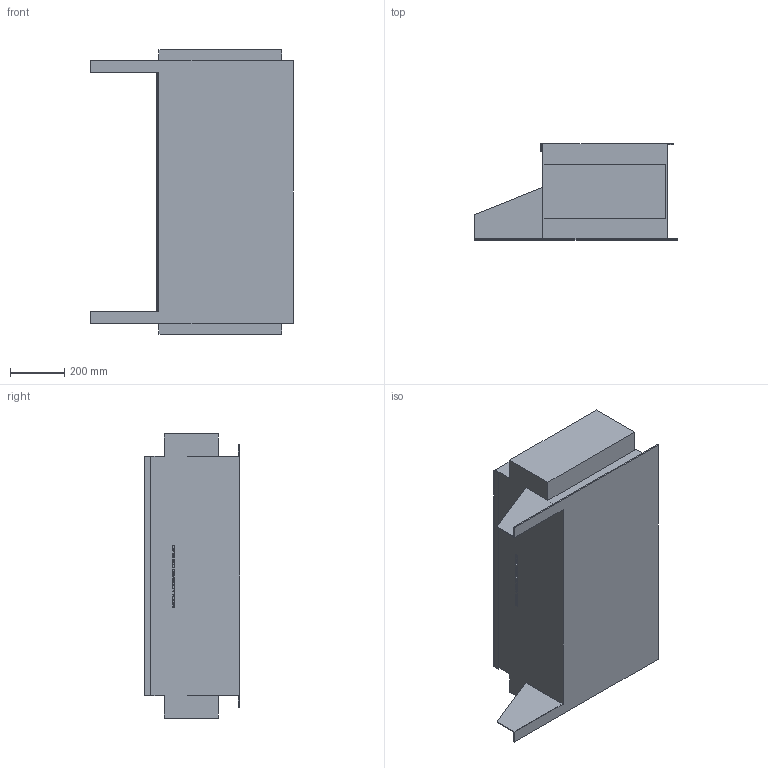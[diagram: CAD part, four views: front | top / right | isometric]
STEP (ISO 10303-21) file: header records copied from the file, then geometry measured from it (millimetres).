
FILE_DESCRIPTION (( 'STEP AP203' ), '1' );
FILE_NAME ('29331.step', '2019-03-14T14:30:24', ( 'PC' ), ( 'Hewlett-Packard Company' ), 'SwSTEP 2.0', 'SolidWorks 2016', '' );
FILE_SCHEMA (( 'CONFIG_CONTROL_DESIGN' ));
Length unit declared in the file: millimetre
Products named in the file (1): 29331
Bounding box: 750 x 353.5 x 1050 mm (x, y, z)
Volume: 159734925.4 mm3; surface area: 2416571.3 mm2
Topology: 1 solids, 1 shells, 282 faces, 741 edges, 494 vertices
Faces by surface type: plane 214, bspline 68
Entity records: 13390 total; most frequent: CARTESIAN_POINT 6802, ORIENTED_EDGE 1482, DIRECTION 1035, EDGE_CURVE 741, LINE 605, VECTOR 605, VERTEX_POINT 494, EDGE_LOOP 315
